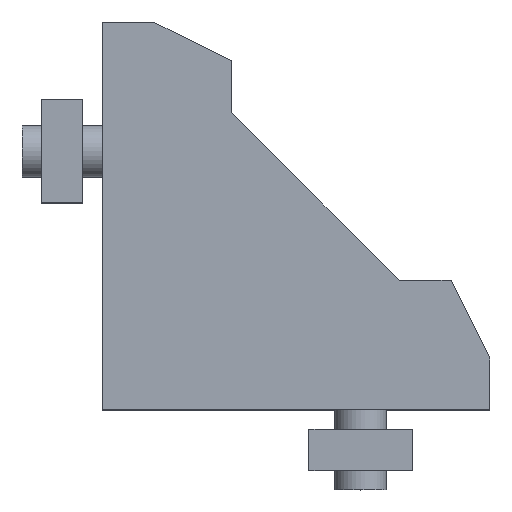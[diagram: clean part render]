
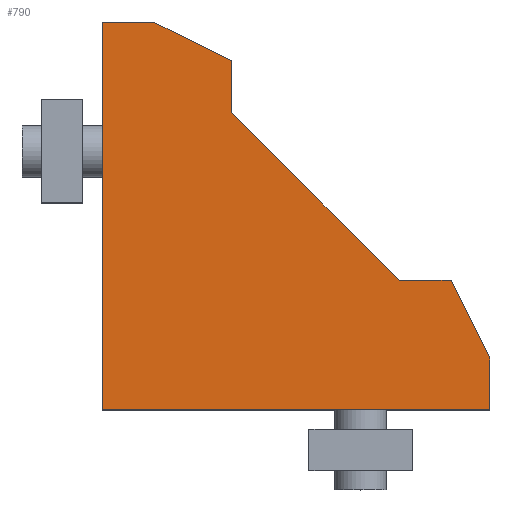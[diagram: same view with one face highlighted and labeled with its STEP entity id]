
A CAD part, top view. The second image highlights one B-rep face of the part: STEP entity #790.
In plain terms, the highlighted planar face has unit normal (0, 0, 1).
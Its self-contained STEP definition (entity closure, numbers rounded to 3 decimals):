
#261=CARTESIAN_POINT('',(27.,10.,7.5));
#262=VERTEX_POINT('',#261);
#269=CARTESIAN_POINT('',(30.,4.,7.5));
#270=VERTEX_POINT('',#269);
#271=CARTESIAN_POINT('',(27.,10.,7.5));
#272=DIRECTION('',(0.447,-0.894,0.0));
#273=VECTOR('',#272,6.708);
#274=LINE('',#271,#273);
#275=EDGE_CURVE('',#262,#270,#274,.T.);
#299=CARTESIAN_POINT('',(23.,10.,7.5));
#300=VERTEX_POINT('',#299);
#307=CARTESIAN_POINT('',(23.,10.,7.5));
#308=DIRECTION('',(1.0,0.0,0.0));
#309=VECTOR('',#308,4.0);
#310=LINE('',#307,#309);
#311=EDGE_CURVE('',#300,#262,#310,.T.);
#330=CARTESIAN_POINT('',(10.,23.,7.5));
#331=VERTEX_POINT('',#330);
#338=CARTESIAN_POINT('',(10.,23.,7.5));
#339=DIRECTION('',(0.707,-0.707,0.0));
#340=VECTOR('',#339,18.385);
#341=LINE('',#338,#340);
#342=EDGE_CURVE('',#331,#300,#341,.T.);
#361=CARTESIAN_POINT('',(10.,27.,7.5));
#362=VERTEX_POINT('',#361);
#369=CARTESIAN_POINT('',(10.,27.,7.5));
#370=DIRECTION('',(0.0,-1.0,0.0));
#371=VECTOR('',#370,4.);
#372=LINE('',#369,#371);
#373=EDGE_CURVE('',#362,#331,#372,.T.);
#392=CARTESIAN_POINT('',(4.,30.,7.5));
#393=VERTEX_POINT('',#392);
#400=CARTESIAN_POINT('',(4.,30.,7.5));
#401=DIRECTION('',(0.894,-0.447,0.0));
#402=VECTOR('',#401,6.708);
#403=LINE('',#400,#402);
#404=EDGE_CURVE('',#393,#362,#403,.T.);
#680=CARTESIAN_POINT('',(0.0,0.0,7.5));
#681=VERTEX_POINT('',#680);
#682=CARTESIAN_POINT('',(0.0,30.,7.5));
#683=VERTEX_POINT('',#682);
#684=CARTESIAN_POINT('',(0.0,0.0,7.5));
#685=DIRECTION('',(0.0,1.0,0.0));
#686=VECTOR('',#685,30.);
#687=LINE('',#684,#686);
#688=EDGE_CURVE('',#681,#683,#687,.T.);
#714=CARTESIAN_POINT('',(0.0,30.,7.5));
#715=DIRECTION('',(1.0,0.0,0.0));
#716=VECTOR('',#715,4.);
#717=LINE('',#714,#716);
#718=EDGE_CURVE('',#683,#393,#717,.T.);
#733=CARTESIAN_POINT('',(30.,0.0,7.5));
#734=VERTEX_POINT('',#733);
#735=CARTESIAN_POINT('',(30.,4.,7.5));
#736=DIRECTION('',(0.0,-1.0,0.0));
#737=VECTOR('',#736,4.);
#738=LINE('',#735,#737);
#739=EDGE_CURVE('',#270,#734,#738,.T.);
#759=CARTESIAN_POINT('',(30.,0.0,7.5));
#760=DIRECTION('',(-1.0,0.0,0.0));
#761=VECTOR('',#760,30.);
#762=LINE('',#759,#761);
#763=EDGE_CURVE('',#734,#681,#762,.T.);
#774=CARTESIAN_POINT('',(11.683,11.683,7.5));
#775=DIRECTION('',(0.0,0.0,1.0));
#776=DIRECTION('',(1.0,0.0,0.0));
#777=AXIS2_PLACEMENT_3D('',#774,#775,#776);
#778=PLANE('',#777);
#779=ORIENTED_EDGE('',*,*,#688,.F.);
#780=ORIENTED_EDGE('',*,*,#763,.F.);
#781=ORIENTED_EDGE('',*,*,#739,.F.);
#782=ORIENTED_EDGE('',*,*,#275,.F.);
#783=ORIENTED_EDGE('',*,*,#311,.F.);
#784=ORIENTED_EDGE('',*,*,#342,.F.);
#785=ORIENTED_EDGE('',*,*,#373,.F.);
#786=ORIENTED_EDGE('',*,*,#404,.F.);
#787=ORIENTED_EDGE('',*,*,#718,.F.);
#788=EDGE_LOOP('',(#779,#780,#781,#782,#783,#784,#785,#786,#787));
#789=FACE_OUTER_BOUND('',#788,.T.);
#790=ADVANCED_FACE('',(#789),#778,.T.);
